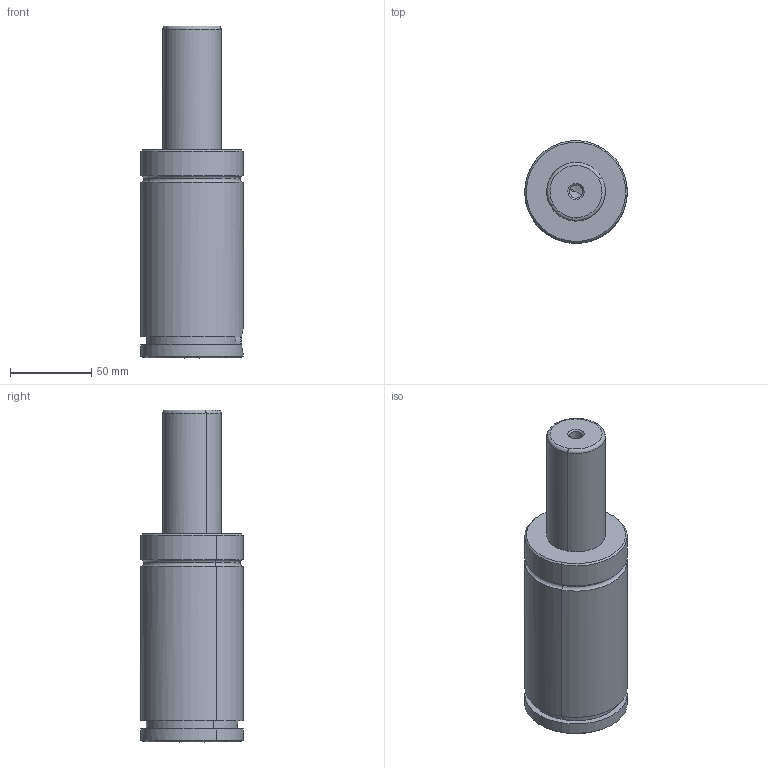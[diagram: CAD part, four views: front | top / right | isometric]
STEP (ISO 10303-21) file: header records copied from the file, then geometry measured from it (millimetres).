
FILE_DESCRIPTION(('FreeCAD Model'),'2;1');
FILE_NAME('Open CASCADE Shape Model','2024-11-12T11:57:07',('Author'),( ''),'Open CASCADE STEP processor 7.6','FreeCAD','Unknown');
FILE_SCHEMA(('AUTOMOTIVE_DESIGN { 1 0 10303 214 1 1 1 1 }'));
Length unit declared in the file: millimetre
Products named in the file (1): Cut
Bounding box: 62.99 x 62.98 x 204 mm (x, y, z)
Volume: 467645 mm3; surface area: 46138.1 mm2
Topology: 3 solids, 3 shells, 109 faces, 232 edges, 132 vertices
Faces by surface type: cone 48, cylinder 31, plane 22, torus 8
Full cylindrical faces by diameter (mm): 8 x4
Entity records: 3549 total; most frequent: CARTESIAN_POINT 1269, DIRECTION 466, ORIENTED_EDGE 448, EDGE_CURVE 224, AXIS2_PLACEMENT_3D 186, VERTEX_POINT 132, FACE_BOUND 120, EDGE_LOOP 120
